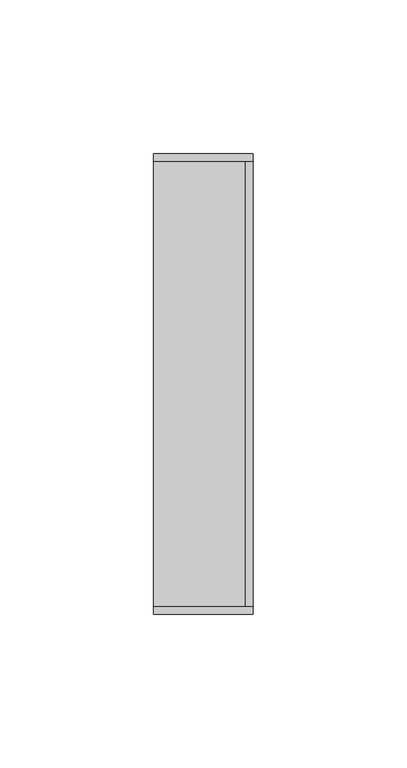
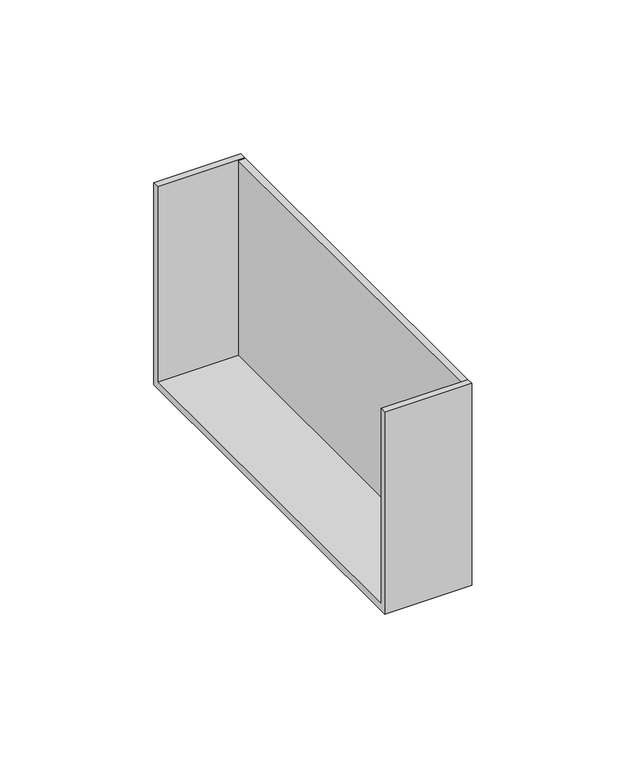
"""IFC4 building model written with IfcOpenShell, lengths in millimetres: cable carrier fitting geometry, КНС_ЗаглушкаТорцеваяLAN_ILC_DKC : Заглушка торцевая LAN_DKC."""

from ifc_helpers import new_model, si_unit, frame, origin, place, context, project, spatial, polyline, outline, extrude, source, transform, mapped, element, save


def cable_carrier_fitting_3baeb6d4(model_context):
    return source(origin(), model_context, "Body", "SweptSolid", [
        extrude(outline(polyline([(75.0, -40.0), (-75.0, -40.0), (-75.0, 40.0), (-72.5, 40.0), (-72.5, -37.5), (72.5, -37.5), (72.5, 40.0), (75.0, 40.0), (75.0, -40.0)])), frame((-32.5, 0.0, 0.0), z_axis=(1.0, 0.0, 0.0), x_axis=(0.0, 1.0, 0.0)), (0.0, 0.0, 1.0), 32.5),
        extrude(outline(polyline([(0.0, 72.5), (0.0, -72.5), (-2.5, -72.5), (-2.5, 72.5), (0.0, 72.5)])), frame((0.0, 0.0, -40.0), z_axis=(0.0, 0.0, 1.0), x_axis=(1.0, 0.0, 0.0)), (0.0, 0.0, 1.0), 80.0),
    ])


if __name__ == "__main__":
    model = new_model("IFC4")
    model_context = context("Model", 3, world=origin())
    ifc_project = project(units=[si_unit("LENGTHUNIT", "METRE", prefix="MILLI")], contexts=[model_context])
    site = spatial("IfcSite", under=ifc_project)
    building = spatial("IfcBuilding", under=site)
    placement = place(None, origin())
    cable_carrier_fitting_shape = cable_carrier_fitting_3baeb6d4(model_context)
    element("IfcCableCarrierFitting", 1, ObjectType="КНС_ЗаглушкаТорцеваяLAN_ILC_DKC : Заглушка торцевая LAN_DKC", at=placement, inside=building, context=model_context, shape_type="MappedRepresentation", body=[
        mapped(cable_carrier_fitting_shape, transform((0.0, 0.0, 0.0), x_axis=(1.0, 0.0, 0.0), y_axis=(0.0, 1.0, 0.0), z_axis=(0.0, 0.0, 1.0))),
    ])
    save(model, "model.ifc")
